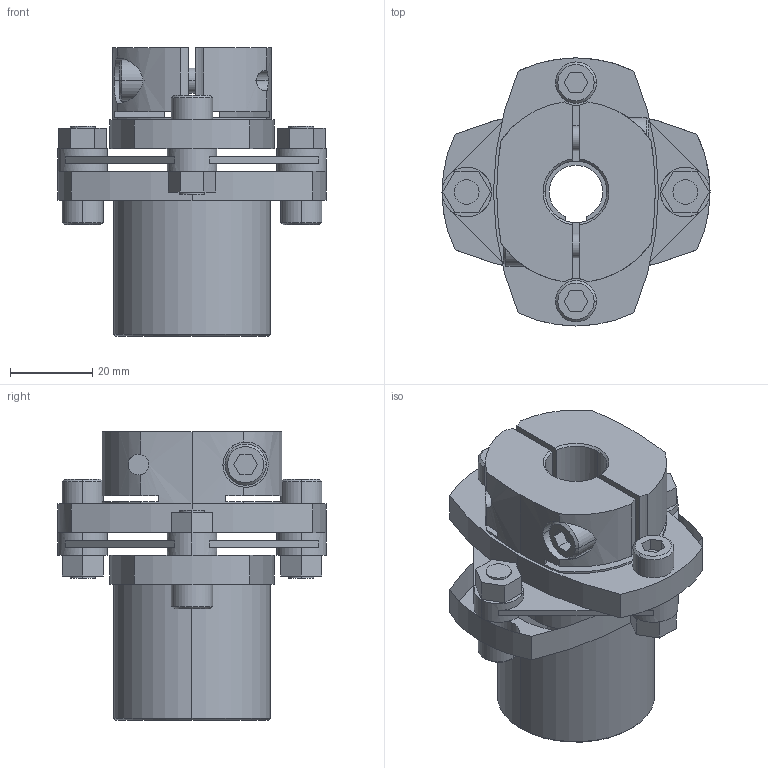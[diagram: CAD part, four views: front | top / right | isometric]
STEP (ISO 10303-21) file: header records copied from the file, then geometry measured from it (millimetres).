
FILE_DESCRIPTION((''),'2;1');
FILE_NAME('LCS-65M-16L亊15B.stp','2015-10-28T03:05:43',(''),(''),'AutoCAD STEP 2000i','AutoCAD 2000i',', , ');
FILE_SCHEMA(('CONFIG_CONTROL_DESIGN'));
Length unit declared in the file: millimetre
Products named in the file (7): LCS-65M-16L×14B; 忣兜1; LC65M-L016; LC65M-L011; LC65-B014-1; LC65-B014; LCS65-ITA
Assembly tree (6 placements, depth 2):
  LCS-65M-16L×14B
    忣兜1
    LC65M-L016
    LC65M-L011
    LC65-B014-1
    LC65-B014
    LCS65-ITA
Bounding box: 65 x 65 x 70 mm (x, y, z)
Volume: 83291.3 mm3; surface area: 29580.3 mm2
Topology: 1 solids, 1 shells, 222 faces, 582 edges, 380 vertices
Faces by surface type: plane 115, cylinder 84, cone 23
Entity records: 7375 total; most frequent: CARTESIAN_POINT 1531, DIRECTION 1242, ORIENTED_EDGE 1164, EDGE_CURVE 582, AXIS2_PLACEMENT_3D 453, VERTEX_POINT 380, VECTOR 336, LINE 336
